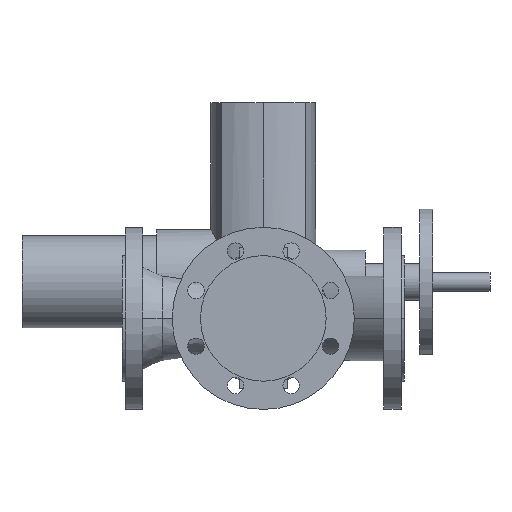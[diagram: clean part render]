
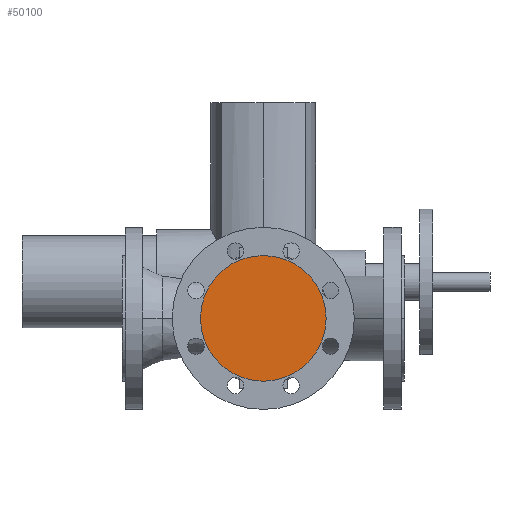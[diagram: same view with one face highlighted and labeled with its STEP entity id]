
A CAD part, front view. The second image highlights one B-rep face of the part: STEP entity #50100.
In plain terms, the highlighted planar face has unit normal (0, -1, 0).
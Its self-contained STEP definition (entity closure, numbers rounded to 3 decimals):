
#3900=CARTESIAN_POINT('',(224.,-130.,0.));
#3910=VERTEX_POINT('',#3900);
#3940=CARTESIAN_POINT('',(155.,-130.,0.));
#3950=DIRECTION('',(0.,1.,0.));
#3960=DIRECTION('',(1.,0.,0.));
#3970=AXIS2_PLACEMENT_3D('',#3940,#3950,#3960);
#3980=CIRCLE('',#3970,69.);
#3990=CARTESIAN_POINT('',(86.,-130.,0.));
#4000=VERTEX_POINT('',#3990);
#4010=EDGE_CURVE('',#4000,#3910,#3980,.T.);
#50000=CARTESIAN_POINT('',(189.5,-130.,0.));
#50010=DIRECTION('',(0.,-1.,0.));
#50020=DIRECTION('',(-1.,0.,0.));
#50030=AXIS2_PLACEMENT_3D('',#50000,#50010,#50020);
#50040=PLANE('',#50030);
#50050=ORIENTED_EDGE('',*,*,#4010,.F.);
#50060=EDGE_CURVE('',#3910,#4000,#3980,.T.);
#50070=ORIENTED_EDGE('',*,*,#50060,.F.);
#50080=EDGE_LOOP('',(#50070,#50050));
#50090=FACE_OUTER_BOUND('',#50080,.T.);
#50100=ADVANCED_FACE('',(#50090),#50040,.T.);
